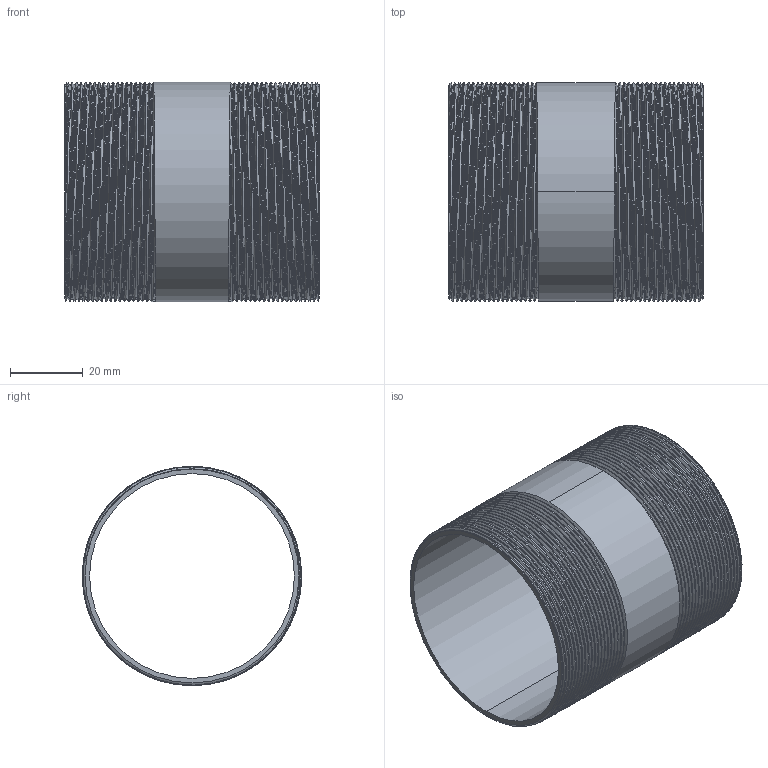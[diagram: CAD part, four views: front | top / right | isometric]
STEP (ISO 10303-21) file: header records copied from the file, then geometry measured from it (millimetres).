
FILE_DESCRIPTION (( 'STEP AP203' ), '1' );
FILE_NAME ('3D_R210_2x70_17148605.STEP', '2024-08-16T10:13:32', ( '' ), ( '' ), 'SwSTEP 2.0', 'SolidWorks 2024', '' );
FILE_SCHEMA (( 'CONFIG_CONTROL_DESIGN' ));
Length unit declared in the file: millimetre
Products named in the file (1): 3D_R210_2x70_17148605
Bounding box: 70 x 60.28 x 60.3 mm (x, y, z)
Volume: 21787.5 mm3; surface area: 30982.9 mm2
Topology: 1 solids, 1 shells, 98 faces, 280 edges, 184 vertices
Faces by surface type: cone 84, bspline 6, cylinder 4, plane 4
Entity records: 18321 total; most frequent: CARTESIAN_POINT 16045, ORIENTED_EDGE 560, DIRECTION 308, EDGE_CURVE 280, VERTEX_POINT 184, B_SPLINE_CURVE_WITH_KNOTS 164, AXIS2_PLACEMENT_3D 107, EDGE_LOOP 100
